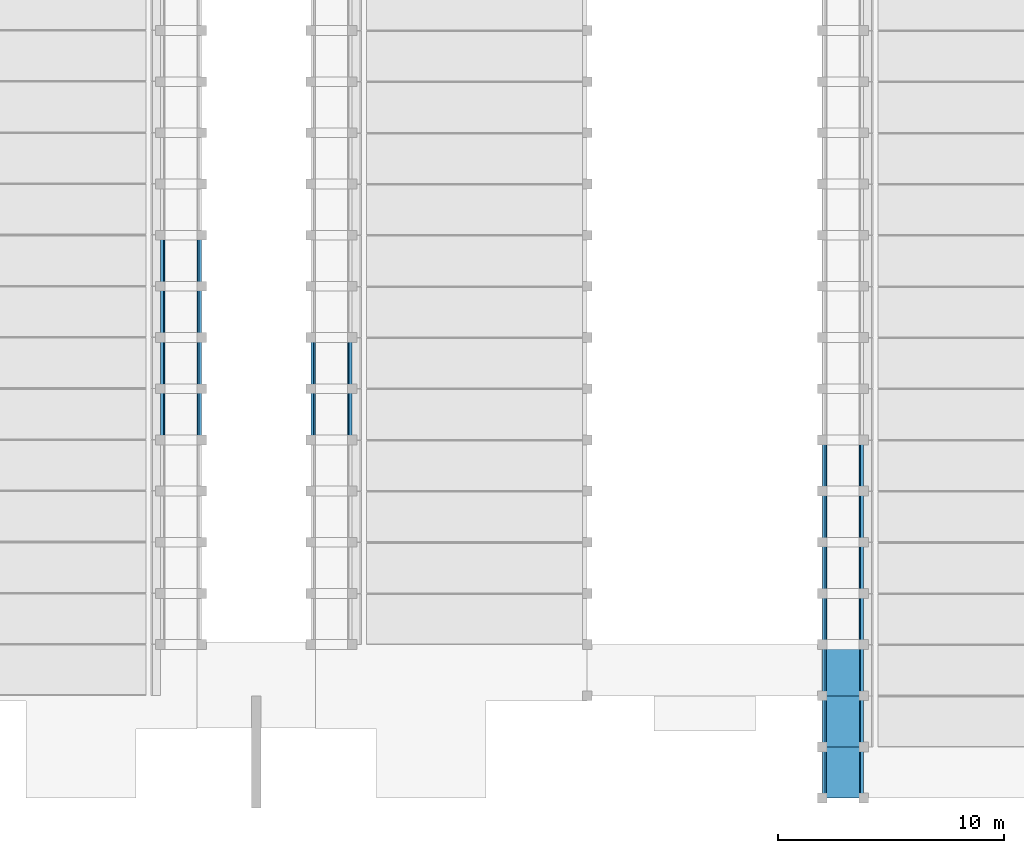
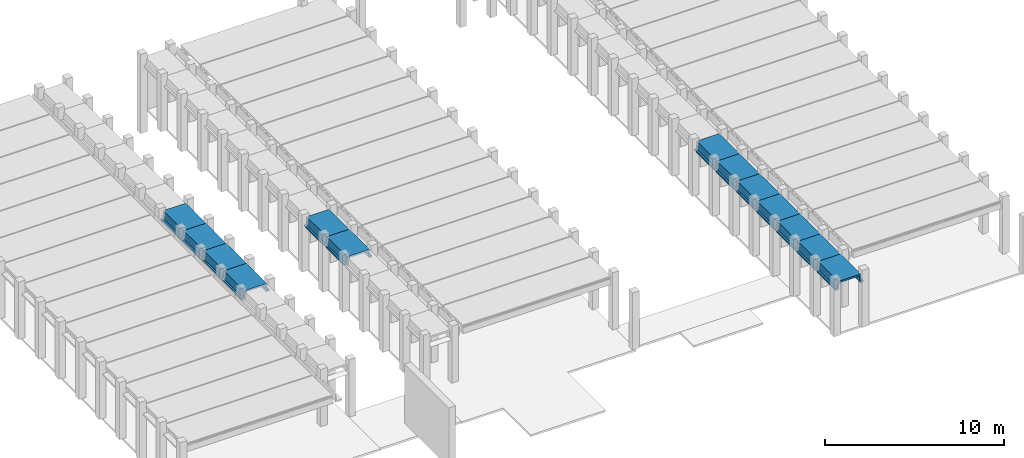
# One storey, part 10 of 21: 13 beams.
"""IFC2X3 building model written with IfcOpenShell, lengths in millimetres."""

from ifc_helpers import new_model, entity, si_unit, converted_unit, derived_unit, direction, frame, origin, place, context, subcontext, project, spatial, polyline, outline, extrude, material, type_object, element, save


model = new_model("IFC2X3")

# Units and contexts
model_context = context("Model", 3, precision=0.01, world=origin(), true_north=direction((6.12303176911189e-17, 1.0)))
body_context = subcontext(model_context, "Body", "Model", "MODEL_VIEW")
ifc_project = project(units=[si_unit("LENGTHUNIT", "METRE", prefix="MILLI"), si_unit("AREAUNIT", "SQUARE_METRE"), si_unit("VOLUMEUNIT", "CUBIC_METRE"), converted_unit("PLANEANGLEUNIT", "DEGREE", entity("IfcRatioMeasure", 0.0174532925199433), si_unit("PLANEANGLEUNIT", "RADIAN"), dimensions=[0, 0, 0, 0, 0, 0, 0]), si_unit("MASSUNIT", "GRAM", prefix="KILO"), derived_unit("MASSDENSITYUNIT", [(si_unit("MASSUNIT", "GRAM", prefix="KILO"), 1), (si_unit("LENGTHUNIT", "METRE"), -3)]), derived_unit("MOMENTOFINERTIAUNIT", [(si_unit("LENGTHUNIT", "METRE"), 4)]), si_unit("TIMEUNIT", "SECOND"), si_unit("FREQUENCYUNIT", "HERTZ"), si_unit("THERMODYNAMICTEMPERATUREUNIT", "DEGREE_CELSIUS"), derived_unit("THERMALTRANSMITTANCEUNIT", [(si_unit("MASSUNIT", "GRAM", prefix="KILO"), 1), (si_unit("THERMODYNAMICTEMPERATUREUNIT", "KELVIN"), -1), (si_unit("TIMEUNIT", "SECOND"), -3)]), derived_unit("VOLUMETRICFLOWRATEUNIT", [(si_unit("LENGTHUNIT", "METRE"), 3), (si_unit("TIMEUNIT", "SECOND"), -1)]), si_unit("ELECTRICCURRENTUNIT", "AMPERE"), si_unit("ELECTRICVOLTAGEUNIT", "VOLT"), si_unit("POWERUNIT", "WATT"), si_unit("FORCEUNIT", "NEWTON", prefix="KILO"), si_unit("ILLUMINANCEUNIT", "LUX"), si_unit("LUMINOUSFLUXUNIT", "LUMEN"), si_unit("LUMINOUSINTENSITYUNIT", "CANDELA"), derived_unit("USERDEFINED", [(si_unit("MASSUNIT", "GRAM", prefix="KILO"), -1), (si_unit("LENGTHUNIT", "METRE"), -2), (si_unit("TIMEUNIT", "SECOND"), 3), (si_unit("LUMINOUSFLUXUNIT", "LUMEN"), 1)]), derived_unit("LINEARVELOCITYUNIT", [(si_unit("LENGTHUNIT", "METRE"), 1), (si_unit("TIMEUNIT", "SECOND"), -1)]), si_unit("PRESSUREUNIT", "PASCAL"), derived_unit("USERDEFINED", [(si_unit("LENGTHUNIT", "METRE"), -2), (si_unit("MASSUNIT", "GRAM", prefix="KILO"), 1), (si_unit("TIMEUNIT", "SECOND"), -2)]), derived_unit("LINEARFORCEUNIT", [(si_unit("MASSUNIT", "GRAM", prefix="KILO"), 1), (si_unit("LENGTHUNIT", "METRE"), 1), (si_unit("TIMEUNIT", "SECOND"), -2), (si_unit("LENGTHUNIT", "METRE"), -1)]), derived_unit("PLANARFORCEUNIT", [(si_unit("MASSUNIT", "GRAM", prefix="KILO"), 1), (si_unit("LENGTHUNIT", "METRE"), 1), (si_unit("TIMEUNIT", "SECOND"), -2), (si_unit("LENGTHUNIT", "METRE"), -2)])], contexts=[model_context])

# Site, building, storey
site_placement = place(None, frame((10627.5135316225, 21939.0796949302, 0.0)))
site = spatial("IfcSite", under=ifc_project, at=site_placement, Name="Default", CompositionType="ELEMENT")
building_placement = place(site_placement, origin())
building = spatial("IfcBuilding", under=site, at=building_placement, CompositionType="ELEMENT")
storey_placement = place(building_placement, frame((0.0, 0.0, 7320.0)))
storey = spatial("IfcBuildingStorey", under=building, at=storey_placement, Name="R+2", CompositionType="ELEMENT", Elevation=7320.0)

# Beams
ifc_material = material(Name="Concrete, Precast Smooth, Light Grey")
beam_type = type_object("IfcBeamType", Name="Poutre petite:Poutre petite", PredefinedType="NOTDEFINED")
beam_1_placement = place(storey_placement, frame((52487.4864683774, -8379.07969493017, 3530.00034615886), z_axis=(0.0, 0.0, 1.0), x_axis=(0.0, 1.0, 0.0)))
element("IfcBeam", 1, at=beam_1_placement, inside=storey, type_object=beam_type, material=ifc_material, Name="Poutre petite:Poutre petite", ObjectType="Poutre petite:Poutre petite", context=body_context, shape_type="SweptSolid", body=[
    extrude(outline(polyline([(103.333217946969, -905.014058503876), (203.333564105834, -905.014058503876), (203.333564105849, -700.013543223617), (-246.666782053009, -640.013497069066), (-246.666782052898, 640.013684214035), (203.333564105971, 700.013730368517), (203.333564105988, 905.013684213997), (103.333217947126, 905.013684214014), (103.333217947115, 785.013684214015), (-366.666782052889, 725.013684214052), (-366.666782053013, -725.013497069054), (103.333217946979, -785.013497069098), (103.333217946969, -905.014058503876)])), frame((0.0, 0.000187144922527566, -366.66678205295), z_axis=(1.0, 0.0, 0.0), x_axis=(0.0, 0.0, -1.0)), (0.0, 0.0, 1.0), 2260.0),
])
beam_2_placement = place(storey_placement, frame((52487.4864683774, -10639.0796949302, 3530.00034615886), z_axis=(0.0, 0.0, 1.0), x_axis=(0.0, 1.0, 0.0)))
element("IfcBeam", 2, at=beam_2_placement, inside=storey, type_object=beam_type, material=ifc_material, Name="Poutre petite:Poutre petite", ObjectType="Poutre petite:Poutre petite", context=body_context, shape_type="SweptSolid", body=[
    extrude(outline(polyline([(103.333217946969, -905.014058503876), (203.333564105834, -905.014058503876), (203.333564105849, -700.013543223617), (-246.666782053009, -640.013497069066), (-246.666782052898, 640.013684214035), (203.333564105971, 700.013730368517), (203.333564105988, 905.013684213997), (103.333217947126, 905.013684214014), (103.333217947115, 785.013684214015), (-366.666782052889, 725.013684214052), (-366.666782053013, -725.013497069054), (103.333217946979, -785.013497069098), (103.333217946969, -905.014058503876)])), frame((0.0, 0.000187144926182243, -366.66678205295), z_axis=(1.0, 0.0, 0.0), x_axis=(0.0, 0.0, -1.0)), (0.0, 0.0, 1.0), 2260.0),
])
beam_3_placement = place(storey_placement, frame((52487.4864683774, -12899.0796949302, 3530.00034615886), z_axis=(0.0, 0.0, 1.0), x_axis=(0.0, 1.0, 0.0)))
element("IfcBeam", 3, at=beam_3_placement, inside=storey, type_object=beam_type, material=ifc_material, Name="Poutre petite:Poutre petite", ObjectType="Poutre petite:Poutre petite", context=body_context, shape_type="SweptSolid", body=[
    extrude(outline(polyline([(103.333217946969, -905.014058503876), (203.333564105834, -905.014058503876), (203.333564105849, -700.013543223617), (-246.666782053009, -640.013497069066), (-246.666782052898, 640.013684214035), (203.333564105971, 700.013730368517), (203.333564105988, 905.013684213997), (103.333217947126, 905.013684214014), (103.333217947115, 785.013684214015), (-366.666782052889, 725.013684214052), (-366.666782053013, -725.013497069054), (103.333217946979, -785.013497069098), (103.333217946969, -905.014058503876)])), frame((0.0, 0.00018714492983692, -366.66678205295), z_axis=(1.0, 0.0, 0.0), x_axis=(0.0, 0.0, -1.0)), (0.0, 0.0, 1.0), 2260.0),
])
beam_4_placement = place(storey_placement, frame((52487.4864683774, -15159.0796949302, 3530.00034615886), z_axis=(0.0, 0.0, 1.0), x_axis=(0.0, 1.0, 0.0)))
element("IfcBeam", 4, at=beam_4_placement, inside=storey, type_object=beam_type, material=ifc_material, Name="Poutre petite:Poutre petite", ObjectType="Poutre petite:Poutre petite", context=body_context, shape_type="SweptSolid", body=[
    extrude(outline(polyline([(103.333217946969, -905.014058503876), (203.333564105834, -905.014058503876), (203.333564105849, -700.013543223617), (-246.666782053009, -640.013497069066), (-246.666782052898, 640.013684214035), (203.333564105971, 700.013730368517), (203.333564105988, 905.013684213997), (103.333217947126, 905.013684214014), (103.333217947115, 785.013684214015), (-366.666782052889, 725.013684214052), (-366.666782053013, -725.013497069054), (103.333217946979, -785.013497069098), (103.333217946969, -905.014058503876)])), frame((0.0, 0.000187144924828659, -366.66678205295), z_axis=(1.0, 0.0, 0.0), x_axis=(0.0, 0.0, -1.0)), (0.0, 0.0, 1.0), 2260.0),
])
beam_5_placement = place(storey_placement, frame((52487.4864683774, -17419.0796949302, 3530.00034615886), z_axis=(0.0, 0.0, 1.0), x_axis=(0.0, 1.0, 0.0)))
element("IfcBeam", 5, at=beam_5_placement, inside=storey, type_object=beam_type, material=ifc_material, Name="Poutre petite:Poutre petite", ObjectType="Poutre petite:Poutre petite", context=body_context, shape_type="SweptSolid", body=[
    extrude(outline(polyline([(103.333217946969, -905.014058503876), (203.333564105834, -905.014058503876), (203.333564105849, -700.013543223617), (-246.666782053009, -640.013497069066), (-246.666782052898, 640.013684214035), (203.333564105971, 700.013730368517), (203.333564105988, 905.013684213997), (103.333217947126, 905.013684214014), (103.333217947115, 785.013684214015), (-366.666782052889, 725.013684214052), (-366.666782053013, -725.013497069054), (103.333217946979, -785.013497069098), (103.333217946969, -905.014058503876)])), frame((0.0, 0.000187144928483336, -366.66678205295), z_axis=(1.0, 0.0, 0.0), x_axis=(0.0, 0.0, -1.0)), (0.0, 0.0, 1.0), 2260.0),
])
beam_6_placement = place(storey_placement, frame((52487.4864683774, -19679.0796949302, 3530.00034615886), z_axis=(0.0, 0.0, 1.0), x_axis=(0.0, 1.0, 0.0)))
element("IfcBeam", 6, at=beam_6_placement, inside=storey, type_object=beam_type, material=ifc_material, Name="Poutre petite:Poutre petite", ObjectType="Poutre petite:Poutre petite", context=body_context, shape_type="SweptSolid", body=[
    extrude(outline(polyline([(103.333217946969, -905.014058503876), (203.333564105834, -905.014058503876), (203.333564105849, -700.013543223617), (-246.666782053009, -640.013497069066), (-246.666782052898, 640.013684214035), (203.333564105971, 700.013730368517), (203.333564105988, 905.013684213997), (103.333217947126, 905.013684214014), (103.333217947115, 785.013684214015), (-366.666782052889, 725.013684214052), (-366.666782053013, -725.013497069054), (103.333217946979, -785.013497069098), (103.333217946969, -905.014058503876)])), frame((0.0, 0.000187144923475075, -366.66678205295), z_axis=(1.0, 0.0, 0.0), x_axis=(0.0, 0.0, -1.0)), (0.0, 0.0, 1.0), 2260.0),
])
beam_7_placement = place(storey_placement, frame((52487.4864683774, -21939.0796949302, 3530.00034615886), z_axis=(0.0, 0.0, 1.0), x_axis=(0.0, 1.0, 0.0)))
element("IfcBeam", 7, at=beam_7_placement, inside=storey, type_object=beam_type, material=ifc_material, Name="Poutre petite:Poutre petite", ObjectType="Poutre petite:Poutre petite", context=body_context, shape_type="SweptSolid", body=[
    extrude(outline(polyline([(103.333217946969, -905.014058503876), (203.333564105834, -905.014058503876), (203.333564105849, -700.013543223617), (-246.666782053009, -640.013497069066), (-246.666782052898, 640.013684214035), (203.333564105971, 700.013730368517), (203.333564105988, 905.013684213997), (103.333217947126, 905.013684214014), (103.333217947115, 785.013684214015), (-366.666782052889, 725.013684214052), (-366.666782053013, -725.013497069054), (103.333217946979, -785.013497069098), (103.333217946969, -905.014058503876)])), frame((0.0, 0.000187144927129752, -366.66678205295), z_axis=(1.0, 0.0, 0.0), x_axis=(0.0, 0.0, -1.0)), (0.0, 0.0, 1.0), 2260.0),
])
beam_8_placement = place(storey_placement, frame((23257.4864683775, 660.920305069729, 3530.0), z_axis=(0.0, 0.0, 1.0), x_axis=(0.0, 1.0, 0.0)))
element("IfcBeam", 8, at=beam_8_placement, inside=storey, type_object=beam_type, material=ifc_material, Name="Poutre petite:Poutre petite", ObjectType="Poutre petite:Poutre petite", context=body_context, shape_type="SweptSolid", body=[
    extrude(outline(polyline([(103.333217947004, -905.013684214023), (203.333564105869, -905.013684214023), (203.333564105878, -700.013730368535), (-246.666782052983, -640.013684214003), (-246.666782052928, 640.013497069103), (203.333564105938, 700.0135432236), (203.333564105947, 905.014058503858), (103.333217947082, 905.014058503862), (103.333217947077, 785.013497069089), (-366.666782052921, 725.01349706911), (-366.666782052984, -725.013684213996), (103.333217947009, -785.013684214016), (103.333217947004, -905.013684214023)])), frame((0.0, -0.000187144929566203, -366.666782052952), z_axis=(1.0, 0.0, 0.0), x_axis=(0.0, 0.0, -1.0)), (0.0, 0.0, 1.0), 2260.0),
])
beam_9_placement = place(storey_placement, frame((23257.4864683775, -1599.07969493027, 3530.0), z_axis=(0.0, 0.0, 1.0), x_axis=(0.0, 1.0, 0.0)))
element("IfcBeam", 9, at=beam_9_placement, inside=storey, type_object=beam_type, material=ifc_material, Name="Poutre petite:Poutre petite", ObjectType="Poutre petite:Poutre petite", context=body_context, shape_type="SweptSolid", body=[
    extrude(outline(polyline([(103.333217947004, -905.013684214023), (203.333564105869, -905.013684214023), (203.333564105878, -700.013730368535), (-246.666782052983, -640.013684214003), (-246.666782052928, 640.013497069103), (203.333564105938, 700.0135432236), (203.333564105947, 905.014058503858), (103.333217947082, 905.014058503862), (103.333217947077, 785.013497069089), (-366.666782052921, 725.01349706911), (-366.666782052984, -725.013684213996), (103.333217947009, -785.013684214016), (103.333217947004, -905.013684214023)])), frame((0.0, -0.000187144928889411, -366.666782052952), z_axis=(1.0, 0.0, 0.0), x_axis=(0.0, 0.0, -1.0)), (0.0, 0.0, 1.0), 2260.0),
])
beam_10_placement = place(storey_placement, frame((23257.4864683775, -3859.07969493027, 3530.0), z_axis=(0.0, 0.0, 1.0), x_axis=(0.0, 1.0, 0.0)))
element("IfcBeam", 10, at=beam_10_placement, inside=storey, type_object=beam_type, material=ifc_material, Name="Poutre petite:Poutre petite", ObjectType="Poutre petite:Poutre petite", context=body_context, shape_type="SweptSolid", body=[
    extrude(outline(polyline([(103.333217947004, -905.013684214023), (203.333564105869, -905.013684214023), (203.333564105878, -700.013730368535), (-246.666782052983, -640.013684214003), (-246.666782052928, 640.013497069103), (203.333564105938, 700.0135432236), (203.333564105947, 905.014058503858), (103.333217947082, 905.014058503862), (103.333217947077, 785.013497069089), (-366.666782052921, 725.01349706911), (-366.666782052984, -725.013684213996), (103.333217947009, -785.013684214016), (103.333217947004, -905.013684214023)])), frame((0.0, -0.000187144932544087, -366.666782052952), z_axis=(1.0, 0.0, 0.0), x_axis=(0.0, 0.0, -1.0)), (0.0, 0.0, 1.0), 2260.0),
])
beam_11_placement = place(storey_placement, frame((23257.4864683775, -6119.07969493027, 3530.0), z_axis=(0.0, 0.0, 1.0), x_axis=(0.0, 1.0, 0.0)))
element("IfcBeam", 11, at=beam_11_placement, inside=storey, type_object=beam_type, material=ifc_material, Name="Poutre petite:Poutre petite", ObjectType="Poutre petite:Poutre petite", context=body_context, shape_type="SweptSolid", body=[
    extrude(outline(polyline([(103.333217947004, -905.013684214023), (203.333564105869, -905.013684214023), (203.333564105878, -700.013730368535), (-246.666782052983, -640.013684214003), (-246.666782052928, 640.013497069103), (203.333564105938, 700.0135432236), (203.333564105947, 905.014058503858), (103.333217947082, 905.014058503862), (103.333217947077, 785.013497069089), (-366.666782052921, 725.01349706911), (-366.666782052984, -725.013684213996), (103.333217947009, -785.013684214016), (103.333217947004, -905.013684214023)])), frame((0.0, -0.000187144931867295, -366.666782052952), z_axis=(1.0, 0.0, 0.0), x_axis=(0.0, 0.0, -1.0)), (0.0, 0.0, 1.0), 2260.0),
])
beam_12_placement = place(storey_placement, frame((29897.4864683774, -3859.07969493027, 3530.0), z_axis=(0.0, 0.0, 1.0), x_axis=(0.0, 1.0, 0.0)))
element("IfcBeam", 12, at=beam_12_placement, inside=storey, type_object=beam_type, material=ifc_material, Name="Poutre petite:Poutre petite", ObjectType="Poutre petite:Poutre petite", context=body_context, shape_type="SweptSolid", body=[
    extrude(outline(polyline([(103.333217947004, -905.014058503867), (203.333564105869, -905.014058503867), (203.333564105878, -700.013543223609), (-246.666782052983, -640.013497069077), (-246.666782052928, 640.013684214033), (203.333564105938, 700.013730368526), (203.333564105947, 905.01368421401), (103.333217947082, 905.013684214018), (103.333217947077, 785.013684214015), (-366.666782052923, 725.013684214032), (-366.666782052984, -725.01349706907), (103.333217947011, -785.013497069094), (103.333217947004, -905.014058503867)])), frame((0.0, 0.000187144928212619, -366.666782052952), z_axis=(1.0, 0.0, 0.0), x_axis=(0.0, 0.0, -1.0)), (0.0, 0.0, 1.0), 2260.0),
])
beam_13_placement = place(storey_placement, frame((29897.4864683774, -6119.07969493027, 3530.0), z_axis=(0.0, 0.0, 1.0), x_axis=(0.0, 1.0, 0.0)))
element("IfcBeam", 13, at=beam_13_placement, inside=storey, type_object=beam_type, material=ifc_material, Name="Poutre petite:Poutre petite", ObjectType="Poutre petite:Poutre petite", context=body_context, shape_type="SweptSolid", body=[
    extrude(outline(polyline([(103.333217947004, -905.014058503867), (203.333564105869, -905.014058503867), (203.333564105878, -700.013543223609), (-246.666782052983, -640.013497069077), (-246.666782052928, 640.013684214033), (203.333564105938, 700.013730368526), (203.333564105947, 905.01368421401), (103.333217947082, 905.013684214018), (103.333217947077, 785.013684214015), (-366.666782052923, 725.013684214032), (-366.666782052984, -725.01349706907), (103.333217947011, -785.013497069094), (103.333217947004, -905.014058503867)])), frame((0.0, 0.000187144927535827, -366.666782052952), z_axis=(1.0, 0.0, 0.0), x_axis=(0.0, 0.0, -1.0)), (0.0, 0.0, 1.0), 2260.0),
])

save(model, "model.ifc")
